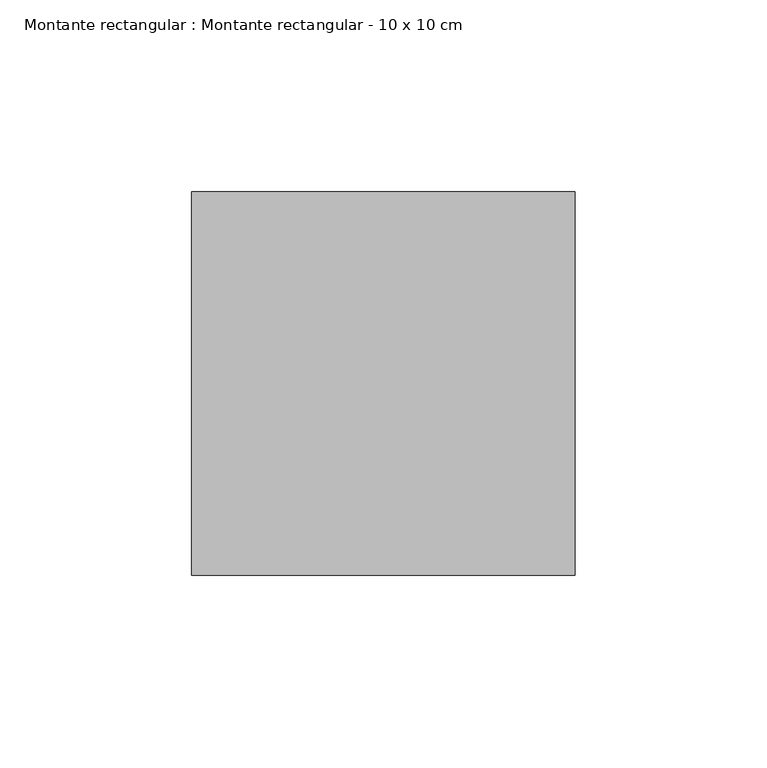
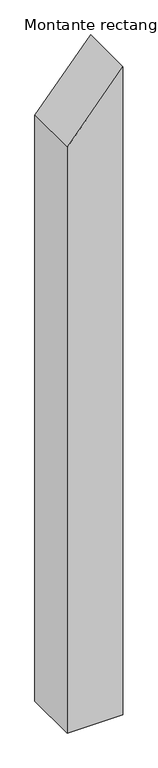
"""IFC4 building model written with IfcOpenShell, lengths in millimetres: member geometry, Montante rectangular : Montante rectangular - 10 x 10 cm."""

from ifc_helpers import new_model, si_unit, frame, origin, place, context, project, spatial, polyline, outline, extrude, source, transform, mapped, element, save


def montante_rectangular_montante_rectangular_10_x_10_cm_cb36bce1(model_context):
    return source(origin(), model_context, "Body", "SweptSolid", [
        extrude(outline(polyline([(0.0, 0.0), (-117.4819316, -100.0), (-1227.7508091, -100.0), (-1227.7508091, 0.0), (0.0, 0.0)])), frame((0.0, -50.0, 0.0), z_axis=(0.0, 1.0, 0.0), x_axis=(0.0, 0.0, 1.0)), (0.0, 0.0, 1.0), 100.0),
    ])


if __name__ == "__main__":
    model = new_model("IFC4")
    model_context = context("Model", 3, world=origin())
    ifc_project = project(units=[si_unit("LENGTHUNIT", "METRE", prefix="MILLI")], contexts=[model_context])
    site = spatial("IfcSite", under=ifc_project)
    building = spatial("IfcBuilding", under=site)
    placement = place(None, origin())
    montante_rectangular_montante_rectangular_10_x_10_cm_shape = montante_rectangular_montante_rectangular_10_x_10_cm_cb36bce1(model_context)
    element("IfcMember", 1, ObjectType="Montante rectangular : Montante rectangular - 10 x 10 cm", at=placement, inside=building, context=model_context, shape_type="MappedRepresentation", body=[
        mapped(montante_rectangular_montante_rectangular_10_x_10_cm_shape, transform((0.0, 0.0, 0.0), x_axis=(1.0, 0.0, 0.0), y_axis=(0.0, 1.0, 0.0), z_axis=(0.0, 0.0, 1.0))),
    ])
    save(model, "model.ifc")
